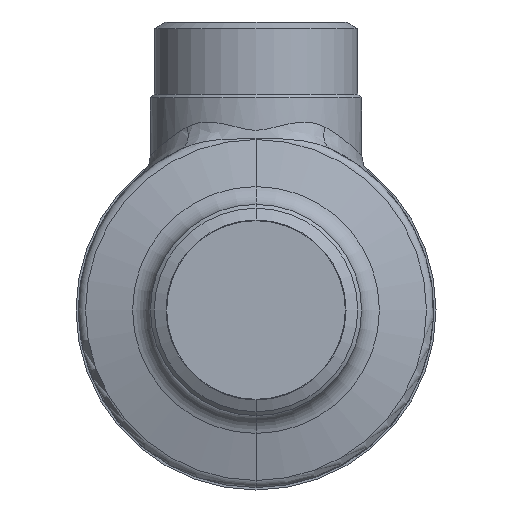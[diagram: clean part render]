
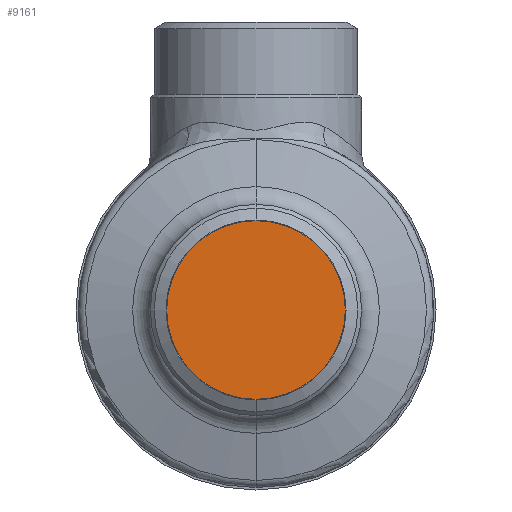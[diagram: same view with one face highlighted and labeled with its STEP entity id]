
A CAD part, front view. The second image highlights one B-rep face of the part: STEP entity #9161.
In plain terms, the highlighted planar face has unit normal (0, -1, 0) as drawn and (0, 0, 1) by its records, which use the part's own axes.
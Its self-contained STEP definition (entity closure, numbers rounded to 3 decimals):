
#1026 = FACE_OUTER_BOUND ( 'NONE', #11860, .T. ) ;
#1027 = PLANE ( 'NONE',  #1028 ) ;
#1028 = AXIS2_PLACEMENT_3D ( 'NONE', #1029, #1030, #1031 ) ;
#1029 = CARTESIAN_POINT ( 'NONE',  ( 0., 0., 39.5 ) ) ;
#1030 = DIRECTION ( 'NONE',  ( 0., 0., 1. ) ) ;
#1031 = DIRECTION ( 'NONE',  ( 1., 0., 0. ) ) ;
#1078 = CARTESIAN_POINT ( 'NONE',  ( -19., 0., 39.5 ) ) ;
#1715 = CIRCLE ( 'NONE', #1716, 19. ) ;
#1716 = AXIS2_PLACEMENT_3D ( 'NONE', #1717, #1718, #1719 ) ;
#1717 = CARTESIAN_POINT ( 'NONE',  ( 0., 0., 39.5 ) ) ;
#1718 = DIRECTION ( 'NONE',  ( 0., 0., 1. ) ) ;
#1719 = DIRECTION ( 'NONE',  ( 1., 0., 0. ) ) ;
#2588 = ORIENTED_EDGE ( 'NONE', *, *, #12673, .T. ) ;
#3971 = CARTESIAN_POINT ( 'NONE',  ( 19., 0., 39.5 ) ) ;
#7450 = VERTEX_POINT ( 'NONE', #3971 ) ;
#7534 = ORIENTED_EDGE ( 'NONE', *, *, #9991, .T. ) ;
#9161 = ADVANCED_FACE ( 'NONE', ( #1026 ), #1027, .T. ) ;
#9991 = EDGE_CURVE ( 'NONE', #7450, #13802, #1715, .T. ) ;
#11860 = EDGE_LOOP ( 'NONE', ( #7534, #2588 ) ) ;
#11975 = CIRCLE ( 'NONE', #11976, 19. ) ;
#11976 = AXIS2_PLACEMENT_3D ( 'NONE', #11977, #11978, #11979 ) ;
#11977 = CARTESIAN_POINT ( 'NONE',  ( 0., 0., 39.5 ) ) ;
#11978 = DIRECTION ( 'NONE',  ( 0., 0., 1. ) ) ;
#11979 = DIRECTION ( 'NONE',  ( 1., 0., 0. ) ) ;
#12673 = EDGE_CURVE ( 'NONE', #13802, #7450, #11975, .T. ) ;
#13802 = VERTEX_POINT ( 'NONE', #1078 ) ;
